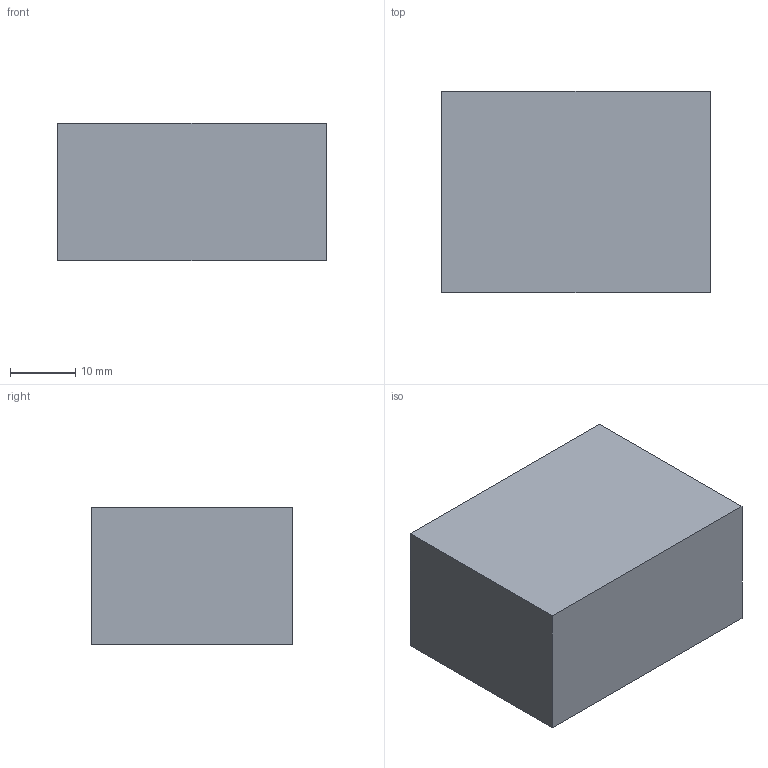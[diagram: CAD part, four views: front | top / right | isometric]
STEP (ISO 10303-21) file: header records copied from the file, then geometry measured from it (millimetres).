
FILE_DESCRIPTION(('Open CASCADE Model'),'2;1');
FILE_NAME('Open CASCADE Shape Model','2026-11-05T02:23:54',('Author'),( 'Open CASCADE'),'Open CASCADE STEP processor 7.8','Open CASCADE 7.8' ,'Unknown');
FILE_SCHEMA(('AUTOMOTIVE_DESIGN { 1 0 10303 214 1 1 1 1 }'));
Length unit declared in the file: millimetre
Products named in the file (1): Open CASCADE STEP translator 7.8 1
Bounding box: 41.07 x 30.82 x 21 mm (x, y, z)
Volume: 26577.7 mm3; surface area: 5550.4 mm2
Topology: 1 solids, 1 shells, 6 faces, 12 edges, 8 vertices
Faces by surface type: plane 6
Entity records: 322 total; most frequent: CARTESIAN_POINT 51, DIRECTION 50, LINE 36, VECTOR 36, ORIENTED_EDGE 24, PCURVE 24, DEFINITIONAL_REPRESENTATION 24, EDGE_CURVE 12
